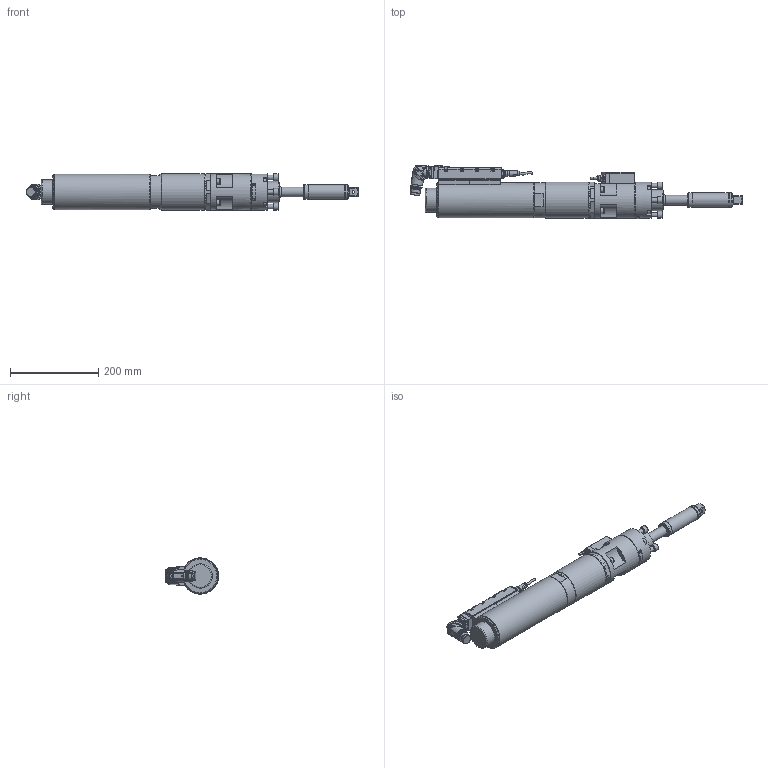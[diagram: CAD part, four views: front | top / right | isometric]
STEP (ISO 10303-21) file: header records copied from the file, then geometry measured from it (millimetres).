
FILE_DESCRIPTION (( 'STEP AP214' ), '1' );
FILE_NAME ('70082449_ESX350DAX500AZX350.STEP', '2016-11-14T11:03:09', ( 'admin' ), ( '' ), 'SwSTEP 2.0', 'SolidWorks 2014', '' );
FILE_SCHEMA (( 'AUTOMOTIVE_DESIGN' ));
Length unit declared in the file: millimetre
Products named in the file (11): 7002133_3; 70082372; 70082345; 70082310_ESX350_Standard_Winkel; 70082293_2; 70057493_Standard_winkel; 70057493_4; 70057493_3; 70057493_2; 70082310; 70082449_ESX350DAX500AZX350
Assembly tree (10 placements, depth 4):
  70082449_ESX350DAX500AZX350
    70082310_ESX350_Standard_Winkel
      70082310
      70057493_Standard_winkel
        70057493_2
        70057493_3
        70057493_4
      70082293_2
    70082345
    70082372
    7002133_3
Bounding box: 752.06 x 120.14 x 82 mm (x, y, z)
Volume: 2923635.2 mm3; surface area: 281702.4 mm2
Topology: 12 solids, 13 shells, 2363 faces, 6073 edges, 3913 vertices
Faces by surface type: plane 1116, cylinder 620, cone 292, bspline 263, torus 67, sphere 5
Full cylindrical faces by diameter (mm): 0.5 x7, 0.57 x14, 1.6 x2, 2 x3, 3 x4, 4.2 x1, 4.9 x3, 5 x4, 5.5 x13, 6 x1, 6.8 x8, 8 x22, 8.459 x2, 9 x2, 10 x4, 11.08 x1, 12.3 x1, 13 x12, 14 x2, 14.5 x2, 16 x4, 17.4 x1, 19.75 x1, 20 x1, 20.5 x1, 21.15 x1, 21.5 x1, 21.7 x1, 21.8 x1, 22.3 x1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
Entity records: 83551 total; most frequent: CARTESIAN_POINT 28698, ORIENTED_EDGE 11220, DIRECTION 9780, EDGE_CURVE 5610, VERTEX_POINT 3779, AXIS2_PLACEMENT_3D 3653, EDGE_LOOP 2879, FACE_OUTER_BOUND 2566
